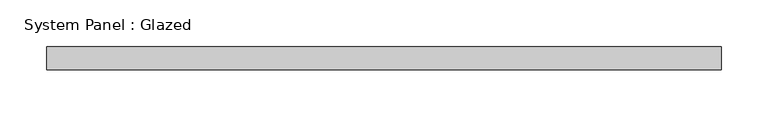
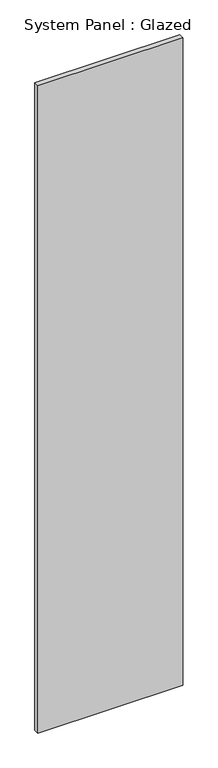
"""IFC4 building model written with IfcOpenShell, lengths in millimetres: plate geometry, System Panel : Glazed."""

from ifc_helpers import new_model, si_unit, origin, origin_with_axes, place, context, project, spatial, polyline, outline, extrude, source, transform, mapped, element, save


def system_panel_glazed_00a298d7(model_context):
    return source(origin(), model_context, "Body", "SweptSolid", [
        extrude(outline(polyline([(362.5, 24.5), (-362.5, 24.5), (-362.5, 49.5), (362.5, 49.5), (362.5, 24.5)])), origin_with_axes(), (0.0, 0.0, 1.0), 3425.0),
    ])


if __name__ == "__main__":
    model = new_model("IFC4")
    model_context = context("Model", 3, world=origin())
    ifc_project = project(units=[si_unit("LENGTHUNIT", "METRE", prefix="MILLI")], contexts=[model_context])
    site = spatial("IfcSite", under=ifc_project)
    building = spatial("IfcBuilding", under=site)
    placement = place(None, origin())
    system_panel_glazed_shape = system_panel_glazed_00a298d7(model_context)
    element("IfcPlate", 1, ObjectType="System Panel : Glazed", at=placement, inside=building, context=model_context, shape_type="MappedRepresentation", body=[
        mapped(system_panel_glazed_shape, transform((0.0, 0.0, 0.0), x_axis=(1.0, 0.0, 0.0), y_axis=(0.0, 1.0, 0.0), z_axis=(0.0, 0.0, 1.0))),
    ])
    save(model, "model.ifc")
